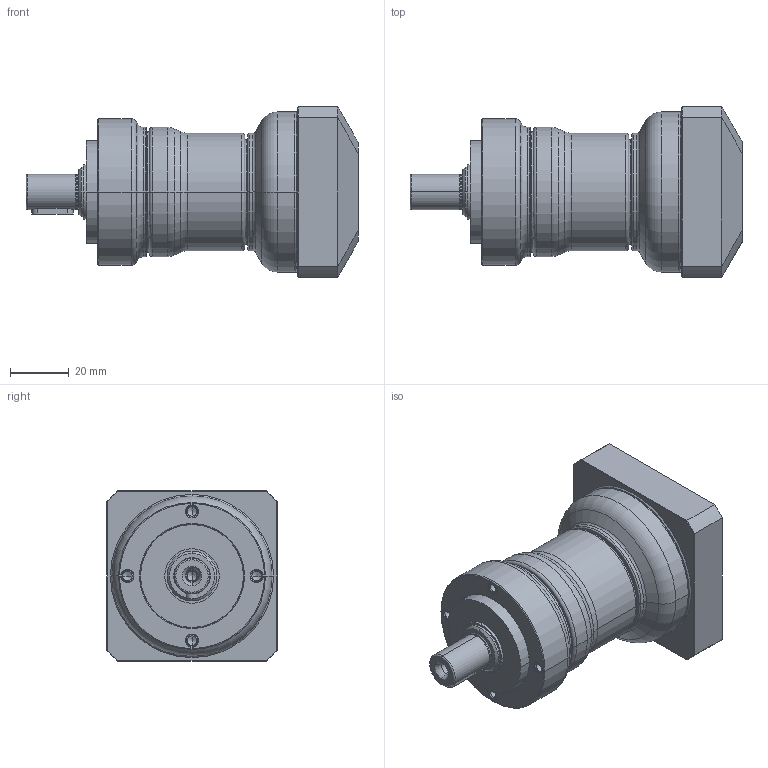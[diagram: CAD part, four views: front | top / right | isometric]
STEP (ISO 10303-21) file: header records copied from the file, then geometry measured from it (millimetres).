
FILE_DESCRIPTION((''),'2;1');
FILE_NAME('PE2-050_2ST_8-P0411100101_ASM','2016-04-26T',('d00435'),(''),'PRO/ENGINEER BY PARAMETRIC TECHNOLOGY CORPORATION, 2008410','PRO/ENGINEER BY PARAMETRIC TECHNOLOGY CORPORATION, 2008410','');
FILE_SCHEMA(('CONFIG_CONTROL_DESIGN'));
Length unit declared in the file: millimetre
Products named in the file (9): P1323100001; P0251100001; P1324100001; P0350101001; P0941100001; P0503100005; P0411100101; P1702300001; PE2-050_2ST_8-P0411100101_ASM
Assembly tree (8 placements, depth 2):
  PE2-050_2ST_8-P0411100101_ASM
    P1323100001
    P0251100001
    P1324100001
    P0350101001
    P0941100001
    P0503100005
    P0411100101
    P1702300001
Bounding box: 113 x 58 x 58 mm (x, y, z)
Volume: 129458.2 mm3; surface area: 51182.4 mm2
Topology: 8 solids, 22 shells, 515 faces, 1168 edges, 696 vertices
Faces by surface type: cylinder 166, cone 138, torus 100, plane 95, bspline 16
Entity records: 19603 total; most frequent: CARTESIAN_POINT 7687, DIRECTION 2731, ORIENTED_EDGE 2224, AXIS2_PLACEMENT_3D 1182, EDGE_CURVE 1140, VERTEX_POINT 696, CIRCLE 656, EDGE_LOOP 594
